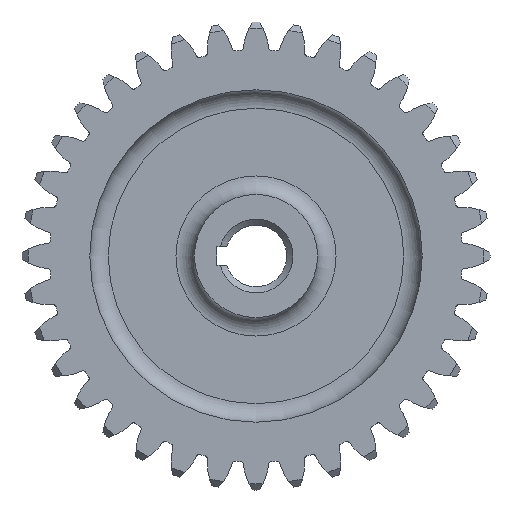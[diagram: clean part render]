
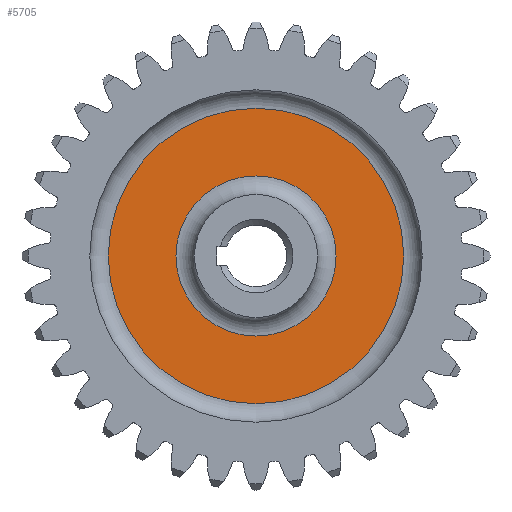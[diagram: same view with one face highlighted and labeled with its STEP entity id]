
A CAD part, left-side view. The second image highlights one B-rep face of the part: STEP entity #5705.
In plain terms, the highlighted planar face has unit normal (-1, 0, 0).
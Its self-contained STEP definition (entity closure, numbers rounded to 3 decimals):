
#164=FACE_BOUND('',#1465,.T.);
#854=PLANE('',#6549);
#1155=FACE_OUTER_BOUND('',#1464,.T.);
#1464=EDGE_LOOP('',(#4857));
#1465=EDGE_LOOP('',(#4858));
#1990=CIRCLE('',#6545,24.);
#1994=CIRCLE('',#6550,13.);
#2602=VERTEX_POINT('',#10689);
#2605=VERTEX_POINT('',#10697);
#3500=EDGE_CURVE('',#2602,#2602,#1990,.T.);
#3504=EDGE_CURVE('',#2605,#2605,#1994,.T.);
#4857=ORIENTED_EDGE('',*,*,#3500,.F.);
#4858=ORIENTED_EDGE('',*,*,#3504,.F.);
#5705=ADVANCED_FACE('',(#1155,#164),#854,.T.);
#6545=AXIS2_PLACEMENT_3D('',#10690,#8414,#8415);
#6549=AXIS2_PLACEMENT_3D('',#10696,#8422,#8423);
#6550=AXIS2_PLACEMENT_3D('',#10698,#8424,#8425);
#8414=DIRECTION('center_axis',(1.,0.,0.));
#8415=DIRECTION('ref_axis',(0.,-1.,0.));
#8422=DIRECTION('center_axis',(-1.,0.,0.));
#8423=DIRECTION('ref_axis',(0.,0.,1.));
#8424=DIRECTION('center_axis',(-1.,0.,0.));
#8425=DIRECTION('ref_axis',(0.,-1.,0.));
#10689=CARTESIAN_POINT('',(-3.,0.,24.));
#10690=CARTESIAN_POINT('Origin',(-3.,0.,0.));
#10696=CARTESIAN_POINT('Origin',(-3.,27.,0.));
#10697=CARTESIAN_POINT('',(-3.,0.,13.));
#10698=CARTESIAN_POINT('Origin',(-3.,0.,0.));
